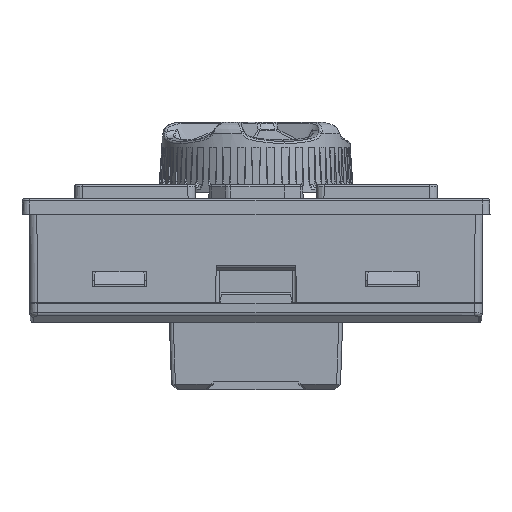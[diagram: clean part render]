
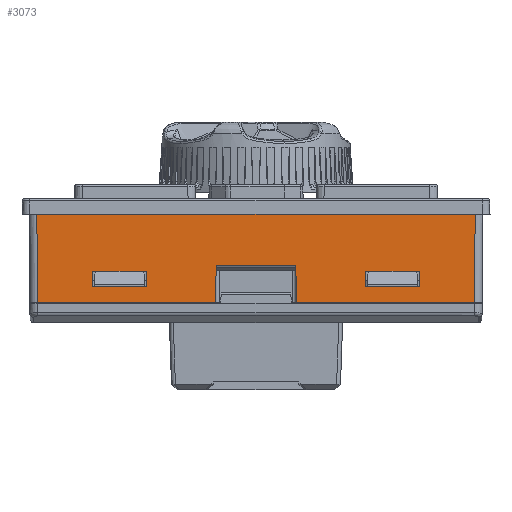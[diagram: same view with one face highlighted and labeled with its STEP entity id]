
A CAD part, front view. The second image highlights one B-rep face of the part: STEP entity #3073.
In plain terms, the highlighted planar face has unit normal (0, -1, -0.009).
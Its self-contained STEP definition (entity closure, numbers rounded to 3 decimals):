
#3073=ADVANCED_FACE('',(#33300,#33302,#33304),#33306,.T.);
#33300=FACE_BOUND('',#33301,.T.);
#33301=EDGE_LOOP('',(#92652,#92653,#92654,#92655,#92656,#92657,#92658,#92659));
#33302=FACE_BOUND('',#33303,.T.);
#33303=EDGE_LOOP('',(#92660,#92661,#92662,#92663));
#33304=FACE_BOUND('',#33305,.T.);
#33305=EDGE_LOOP('',(#92664,#92665,#92666,#92667));
#33306=PLANE('',#33307);
#33307=AXIS2_PLACEMENT_3D('',#33308,#33309,#33310);
#33308=CARTESIAN_POINT('',(-31.375,-43.25,-13.3));
#33309=DIRECTION('',(0.,-1.,-0.009));
#33310=DIRECTION('',(1.,0.,0.));
#92652=ORIENTED_EDGE('',*,*,#108974,.T.);
#92653=ORIENTED_EDGE('',*,*,#108197,.T.);
#92654=ORIENTED_EDGE('',*,*,#108986,.F.);
#92655=ORIENTED_EDGE('',*,*,#108266,.F.);
#92656=ORIENTED_EDGE('',*,*,#108987,.T.);
#92657=ORIENTED_EDGE('',*,*,#108203,.T.);
#92658=ORIENTED_EDGE('',*,*,#108985,.T.);
#92659=ORIENTED_EDGE('',*,*,#108988,.T.);
#92660=ORIENTED_EDGE('',*,*,#108989,.F.);
#92661=ORIENTED_EDGE('',*,*,#108990,.F.);
#92662=ORIENTED_EDGE('',*,*,#108991,.F.);
#92663=ORIENTED_EDGE('',*,*,#108992,.F.);
#92664=ORIENTED_EDGE('',*,*,#108993,.F.);
#92665=ORIENTED_EDGE('',*,*,#108994,.F.);
#92666=ORIENTED_EDGE('',*,*,#108995,.F.);
#92667=ORIENTED_EDGE('',*,*,#108996,.F.);
#108197=EDGE_CURVE('',#116701,#116699,#116702,.T.);
#108203=EDGE_CURVE('',#116713,#116711,#116714,.T.);
#108266=EDGE_CURVE('',#116834,#116836,#116837,.T.);
#108974=EDGE_CURVE('',#118101,#116701,#118102,.T.);
#108985=EDGE_CURVE('',#116711,#118116,#118118,.T.);
#108986=EDGE_CURVE('',#116836,#116699,#118119,.T.);
#108987=EDGE_CURVE('',#116834,#116713,#118120,.T.);
#108988=EDGE_CURVE('',#118116,#118101,#118121,.T.);
#108989=EDGE_CURVE('',#118122,#118123,#118124,.T.);
#108990=EDGE_CURVE('',#118125,#118122,#118126,.T.);
#108991=EDGE_CURVE('',#118127,#118125,#118128,.T.);
#108992=EDGE_CURVE('',#118123,#118127,#118129,.T.);
#108993=EDGE_CURVE('',#118130,#118131,#118132,.T.);
#108994=EDGE_CURVE('',#118133,#118130,#118134,.T.);
#108995=EDGE_CURVE('',#118135,#118133,#118136,.T.);
#108996=EDGE_CURVE('',#118131,#118135,#118137,.T.);
#116699=VERTEX_POINT('',#131423);
#116701=VERTEX_POINT('',#131428);
#116702=LINE('',#131429,#131430);
#116711=VERTEX_POINT('',#131450);
#116713=VERTEX_POINT('',#131454);
#116714=LINE('',#131455,#131456);
#116834=VERTEX_POINT('',#131721);
#116836=VERTEX_POINT('',#131726);
#116837=LINE('',#131727,#131728);
#118101=VERTEX_POINT('',#136546);
#118102=LINE('',#136547,#136548);
#118116=VERTEX_POINT('',#136591);
#118118=LINE('',#136596,#136597);
#118119=LINE('',#136599,#136600);
#118120=LINE('',#136602,#136603);
#118121=LINE('',#136605,#136606);
#118122=VERTEX_POINT('',#136608);
#118123=VERTEX_POINT('',#136609);
#118124=LINE('',#136610,#136611);
#118125=VERTEX_POINT('',#136613);
#118126=LINE('',#136614,#136615);
#118127=VERTEX_POINT('',#136617);
#118128=LINE('',#136618,#136619);
#118129=LINE('',#136621,#136622);
#118130=VERTEX_POINT('',#136624);
#118131=VERTEX_POINT('',#136625);
#118132=LINE('',#136626,#136627);
#118133=VERTEX_POINT('',#136629);
#118134=LINE('',#136630,#136631);
#118135=VERTEX_POINT('',#136633);
#118136=LINE('',#136634,#136635);
#118137=LINE('',#136637,#136638);
#131423=CARTESIAN_POINT('',(28.,-43.25,-13.3));
#131428=CARTESIAN_POINT('',(5.189,-43.25,-13.3));
#131429=CARTESIAN_POINT('',(5.189,-43.25,-13.3));
#131430=VECTOR('',#131431,1.);
#131431=DIRECTION('',(1.,0.,0.));
#131450=CARTESIAN_POINT('',(-5.189,-43.25,-13.3));
#131454=CARTESIAN_POINT('',(-28.,-43.25,-13.3));
#131455=CARTESIAN_POINT('',(-28.,-43.25,-13.3));
#131456=VECTOR('',#131457,1.);
#131457=DIRECTION('',(1.,0.,0.));
#131721=CARTESIAN_POINT('',(-28.099,-43.349,-2.));
#131726=CARTESIAN_POINT('',(28.099,-43.349,-2.));
#131727=CARTESIAN_POINT('',(-28.099,-43.349,-2.));
#131728=VECTOR('',#131729,1.);
#131729=DIRECTION('',(1.,0.,0.));
#136546=CARTESIAN_POINT('',(5.105,-43.292,-8.505));
#136547=CARTESIAN_POINT('',(5.105,-43.292,-8.505));
#136548=VECTOR('',#136549,1.);
#136549=DIRECTION('',(0.017,0.009,-1.));
#136591=CARTESIAN_POINT('',(-5.105,-43.292,-8.505));
#136596=CARTESIAN_POINT('',(-5.189,-43.25,-13.3));
#136597=VECTOR('',#136598,1.);
#136598=DIRECTION('',(0.017,-0.009,1.));
#136599=CARTESIAN_POINT('',(28.099,-43.349,-2.));
#136600=VECTOR('',#136601,1.);
#136601=DIRECTION('',(-0.009,0.009,-1.));
#136602=CARTESIAN_POINT('',(-28.099,-43.349,-2.));
#136603=VECTOR('',#136604,1.);
#136604=DIRECTION('',(0.009,0.009,-1.));
#136605=CARTESIAN_POINT('',(-5.105,-43.292,-8.505));
#136606=VECTOR('',#136607,1.);
#136607=DIRECTION('',(1.,0.,0.));
#136608=CARTESIAN_POINT('',(14.1,-43.285,-9.3));
#136609=CARTESIAN_POINT('',(14.1,-43.267,-11.3));
#136610=CARTESIAN_POINT('',(14.1,-43.285,-9.3));
#136611=VECTOR('',#136612,1.);
#136612=DIRECTION('',(0.,0.009,-1.));
#136613=CARTESIAN_POINT('',(20.9,-43.285,-9.3));
#136614=CARTESIAN_POINT('',(20.9,-43.285,-9.3));
#136615=VECTOR('',#136616,1.);
#136616=DIRECTION('',(-1.,0.,0.));
#136617=CARTESIAN_POINT('',(20.9,-43.267,-11.3));
#136618=CARTESIAN_POINT('',(20.9,-43.267,-11.3));
#136619=VECTOR('',#136620,1.);
#136620=DIRECTION('',(0.,-0.009,1.));
#136621=CARTESIAN_POINT('',(14.1,-43.267,-11.3));
#136622=VECTOR('',#136623,1.);
#136623=DIRECTION('',(1.,0.,0.));
#136624=CARTESIAN_POINT('',(-14.1,-43.285,-9.3));
#136625=CARTESIAN_POINT('',(-20.9,-43.285,-9.3));
#136626=CARTESIAN_POINT('',(-14.1,-43.285,-9.3));
#136627=VECTOR('',#136628,1.);
#136628=DIRECTION('',(-1.,0.,0.));
#136629=CARTESIAN_POINT('',(-14.1,-43.267,-11.3));
#136630=CARTESIAN_POINT('',(-14.1,-43.267,-11.3));
#136631=VECTOR('',#136632,1.);
#136632=DIRECTION('',(0.,-0.009,1.));
#136633=CARTESIAN_POINT('',(-20.9,-43.267,-11.3));
#136634=CARTESIAN_POINT('',(-20.9,-43.267,-11.3));
#136635=VECTOR('',#136636,1.);
#136636=DIRECTION('',(1.,0.,0.));
#136637=CARTESIAN_POINT('',(-20.9,-43.285,-9.3));
#136638=VECTOR('',#136639,1.);
#136639=DIRECTION('',(0.,0.009,-1.));
